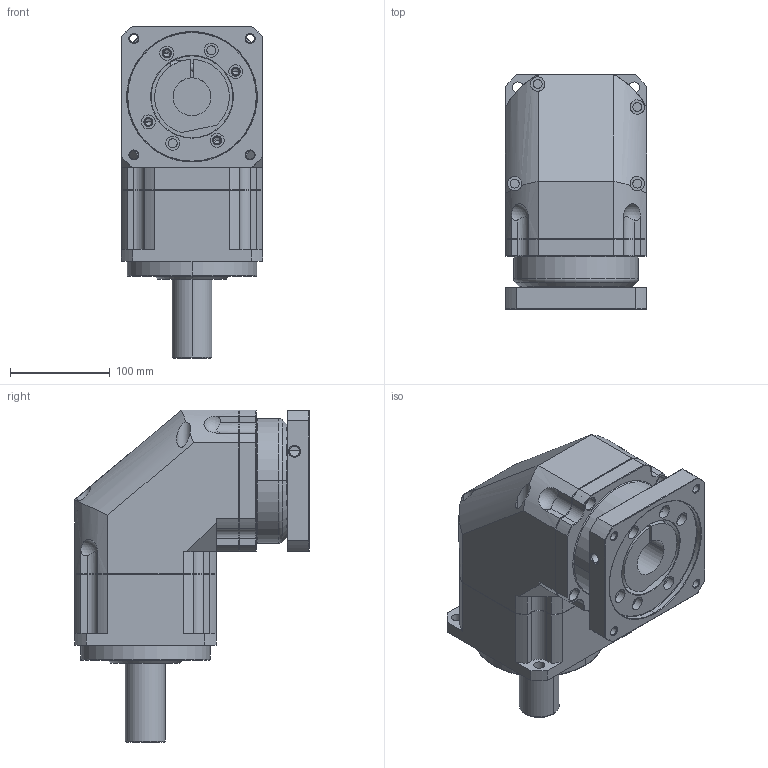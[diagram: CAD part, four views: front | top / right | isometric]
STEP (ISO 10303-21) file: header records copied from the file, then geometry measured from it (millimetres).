
FILE_DESCRIPTION((''),'2;1');
FILE_NAME('ABR1421-P0403500401_ASM','2016-03-25T',('d00435'),(''),'PRO/ENGINEER BY PARAMETRIC TECHNOLOGY CORPORATION, 2008410','PRO/ENGINEER BY PARAMETRIC TECHNOLOGY CORPORATION, 2008410','');
FILE_SCHEMA(('CONFIG_CONTROL_DESIGN'));
Length unit declared in the file: millimetre
Products named in the file (5): AB1421; P1001500001; P1301500001; P0403500401; ABR1421-P0403500401_ASM
Assembly tree (4 placements, depth 2):
  ABR1421-P0403500401_ASM
    AB1421
    P1001500001
    P1301500001
    P0403500401
Bounding box: 142 x 235.5 x 333 mm (x, y, z)
Volume: 4040519.3 mm3; surface area: 462486.6 mm2
Topology: 5 solids, 23 shells, 710 faces, 1671 edges, 1013 vertices
Faces by surface type: cylinder 282, plane 190, cone 166, torus 68, sphere 4
Entity records: 21040 total; most frequent: CARTESIAN_POINT 4196, DIRECTION 3828, ORIENTED_EDGE 3216, EDGE_CURVE 1647, AXIS2_PLACEMENT_3D 1572, VERTEX_POINT 1013, CIRCLE 845, EDGE_LOOP 832
